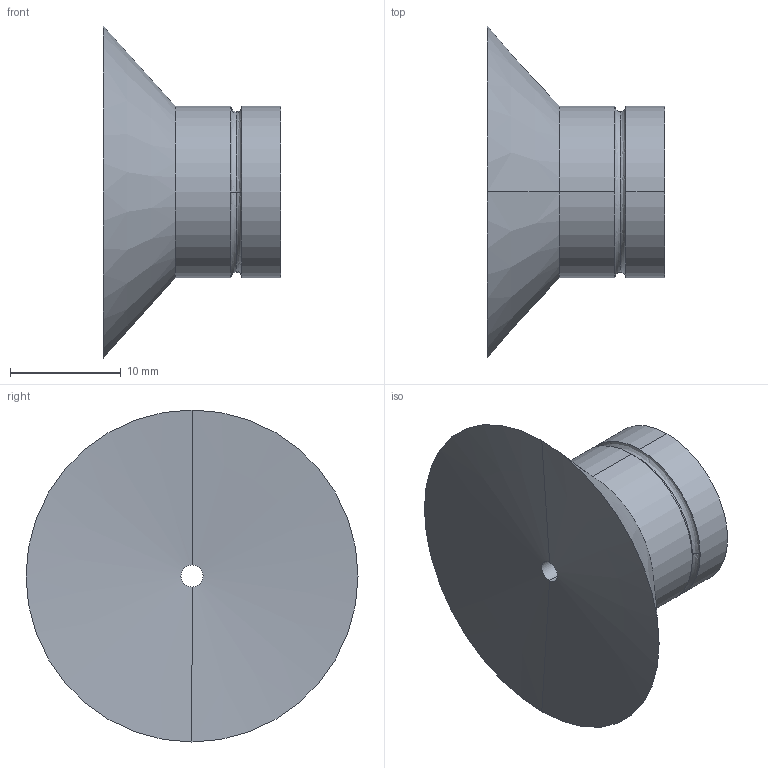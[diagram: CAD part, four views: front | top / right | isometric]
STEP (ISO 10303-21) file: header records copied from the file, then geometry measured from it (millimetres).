
FILE_DESCRIPTION (( 'STEP AP214' ), '1' );
FILE_NAME ('VSH-30R.STEP', '2019-11-14T01:35:46', ( '微软用户' ), ( '微软中国' ), 'SwSTEP 2.0', 'SolidWorks 2016', '' );
FILE_SCHEMA (( 'AUTOMOTIVE_DESIGN' ));
Length unit declared in the file: millimetre
Products named in the file (1): VSH-30R
Bounding box: 16 x 30 x 30 mm (x, y, z)
Volume: 3856.7 mm3; surface area: 2359.3 mm2
Topology: 1 solids, 1 shells, 21 faces, 46 edges, 28 vertices
Faces by surface type: cylinder 10, cone 4, bspline 4, plane 3
Entity records: 666 total; most frequent: CARTESIAN_POINT 168, DIRECTION 106, ORIENTED_EDGE 92, AXIS2_PLACEMENT_3D 46, EDGE_CURVE 46, CIRCLE 28, VERTEX_POINT 28, EDGE_LOOP 24
